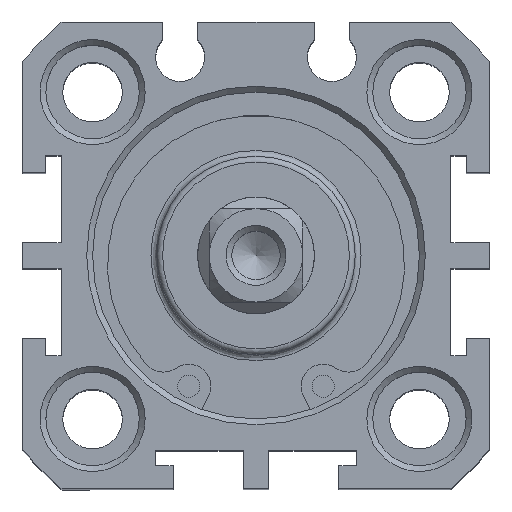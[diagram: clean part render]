
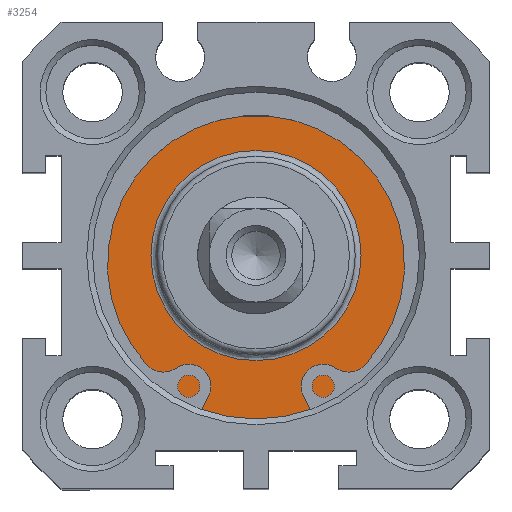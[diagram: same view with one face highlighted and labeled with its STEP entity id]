
A CAD part, top view. The second image highlights one B-rep face of the part: STEP entity #3254.
In plain terms, the highlighted planar face has unit normal (0, 0, 1).
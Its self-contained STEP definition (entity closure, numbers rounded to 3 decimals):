
#3203=CARTESIAN_POINT('',(-2.524,11.284,48.3));
#3204=VERTEX_POINT('',#3203);
#3205=CARTESIAN_POINT('',(-2.524,2.284,48.3));
#3206=DIRECTION('',(0.0,0.0,1.0));
#3207=DIRECTION('',(0.0,-1.0,0.0));
#3208=AXIS2_PLACEMENT_3D('',#3205,#3206,#3207);
#3209=CIRCLE('',#3208,9.0);
#3210=EDGE_CURVE('',#3204,#3204,#3209,.T.);
#3235=CARTESIAN_POINT('',(-2.524,13.534,48.3));
#3236=DIRECTION('',(0.0,0.0,1.0));
#3237=DIRECTION('',(1.0,0.0,0.0));
#3238=AXIS2_PLACEMENT_3D('',#3235,#3236,#3237);
#3239=PLANE('',#3238);
#3240=CARTESIAN_POINT('',(-2.524,16.284,48.3));
#3241=VERTEX_POINT('',#3240);
#3242=CARTESIAN_POINT('',(-2.524,2.284,48.3));
#3243=DIRECTION('',(0.0,0.0,-1.0));
#3244=DIRECTION('',(0.0,1.0,0.0));
#3245=AXIS2_PLACEMENT_3D('',#3242,#3243,#3244);
#3246=CIRCLE('',#3245,14.0);
#3247=EDGE_CURVE('',#3241,#3241,#3246,.T.);
#3248=ORIENTED_EDGE('',*,*,#3247,.F.);
#3249=EDGE_LOOP('',(#3248));
#3250=FACE_OUTER_BOUND('',#3249,.T.);
#3251=ORIENTED_EDGE('',*,*,#3210,.F.);
#3252=EDGE_LOOP('',(#3251));
#3253=FACE_BOUND('',#3252,.T.);
#3254=ADVANCED_FACE('',(#3250,#3253),#3239,.T.);
